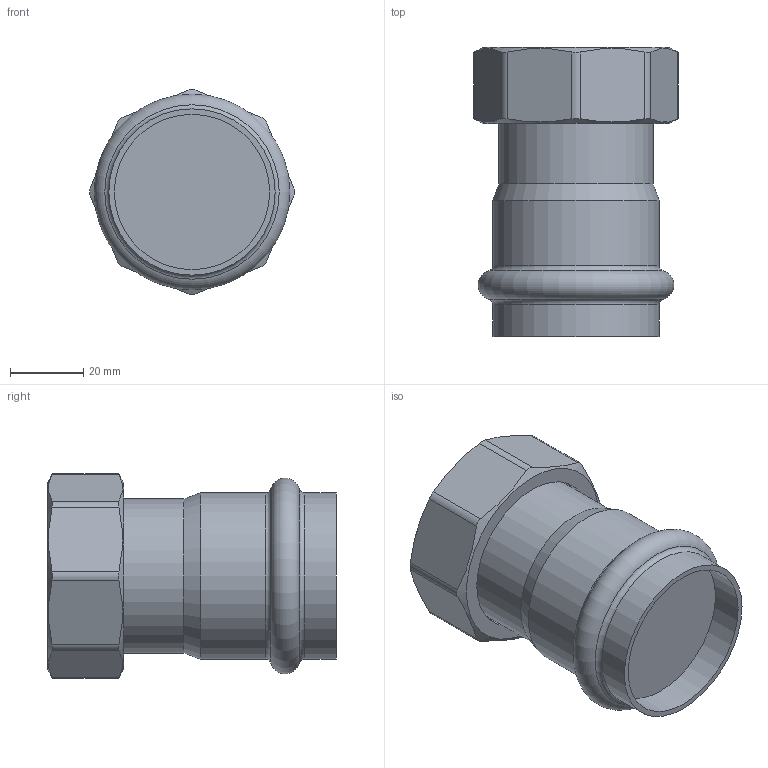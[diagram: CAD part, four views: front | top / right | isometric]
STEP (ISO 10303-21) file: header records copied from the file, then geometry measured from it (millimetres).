
FILE_DESCRIPTION(('STEP AP203'), '1');
FILE_NAME('VTi.908.I.004208', '', ('UNSPECIFIED'), ('UNSPECIFIED'), 'C3D Converter', 'C3D Toolkit', '');
FILE_SCHEMA(('CONFIG_CONTROL_DESIGN'));
Length unit declared in the file: millimetre
Bounding box: 55.79 x 78.7 x 55.79 mm (x, y, z)
Volume: 107544.8 mm3; surface area: 20412.3 mm2
Topology: 1 solids, 1 shells, 35 faces, 80 edges, 51 vertices
Faces by surface type: plane 14, cylinder 14, cone 4, torus 3
Full cylindrical faces by diameter (mm): 42 x1, 42.3 x1, 43 x1, 44.846 x1, 45.3 x2
Entity records: 2144 total; most frequent: CARTESIAN_POINT 1416, ORIENTED_EDGE 134, DIRECTION 122, EDGE_CURVE 67, AXIS2_PLACEMENT_3D 53, EDGE_LOOP 52, VERTEX_POINT 51, ADVANCED_FACE 35
